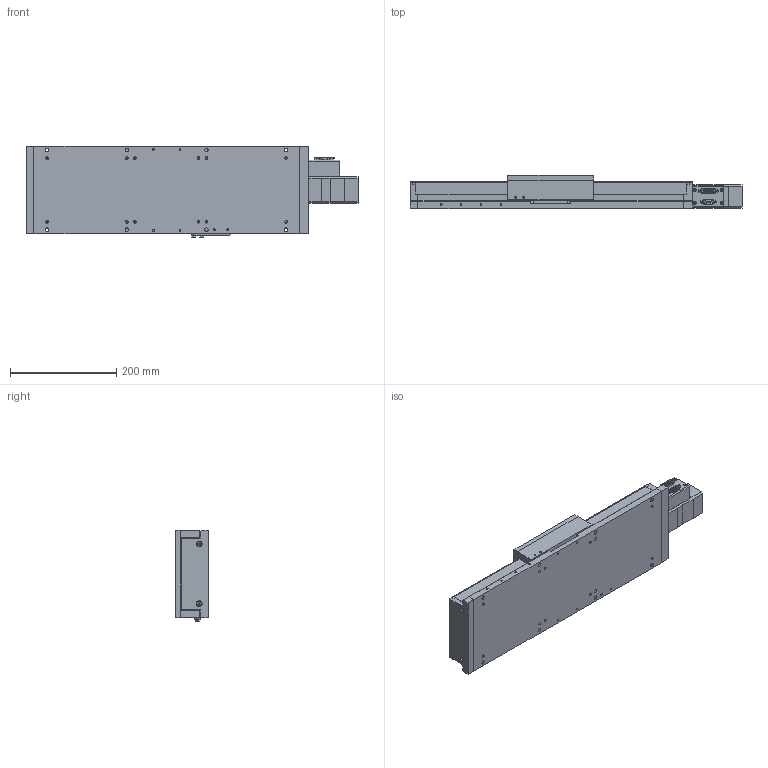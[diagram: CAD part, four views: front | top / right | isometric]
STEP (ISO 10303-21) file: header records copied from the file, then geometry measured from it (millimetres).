
FILE_DESCRIPTION (( 'STEP AP214' ), '1' );
FILE_NAME ('LM3-300-BS-A-H-S-G-EXPORT.STEP', '2024-05-07T14:58:23', ( 'lab' ), ( '' ), 'SwSTEP 2.0', 'SolidWorks 2018', '' );
FILE_SCHEMA (( 'AUTOMOTIVE_DESIGN' ));
Length unit declared in the file: millimetre
Products named in the file (17): 1000003_91290A148; 1000015; 1000001; LM3-300-BS-A-H-S-G-EXPORT; 1000005; 1000004; 1000012_300; 1000014_91290A150; 1000007; 1000020; 1000013; 1000009; 1000008; 1000006; 1000002; 1000011; 1000010
Assembly tree (28 placements, depth 3):
  LM3-300-BS-A-H-S-G-EXPORT
    1000020
      1000004
      1000005
      1000006
      1000007
      1000008
      1000009  x4
      1000010
      1000011
      1000012_300
      1000013
      1000014_91290A150  x8
      1000015
      1000003_91290A148  x2
      1000001  x2
      1000002
Bounding box: 625.6 x 62 x 173 mm (x, y, z)
Volume: 4545422.9 mm3; surface area: 445132.5 mm2
Topology: 79 solids, 79 shells, 1754 faces, 4014 edges, 2466 vertices
Faces by surface type: plane 903, cylinder 473, cone 208, bspline 170
Entity records: 53421 total; most frequent: CARTESIAN_POINT 13206, DIRECTION 6770, ORIENTED_EDGE 6600, EDGE_CURVE 3300, AXIS2_PLACEMENT_3D 2395, VERTEX_POINT 2103, LINE 1980, VECTOR 1980
